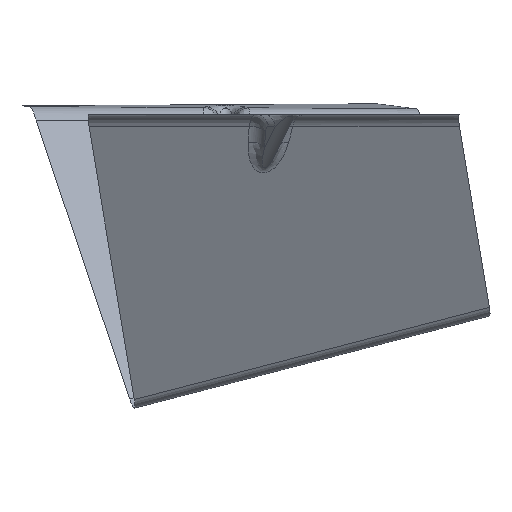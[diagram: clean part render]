
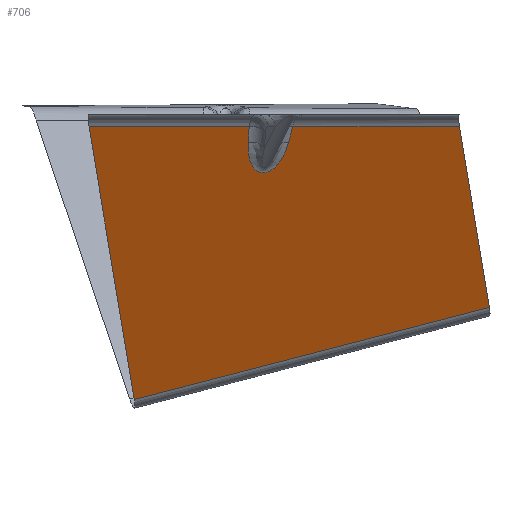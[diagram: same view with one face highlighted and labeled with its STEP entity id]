
A CAD part, left-side view. The second image highlights one B-rep face of the part: STEP entity #706.
In plain terms, the highlighted planar face has unit normal (-0.83, -0.249, -0.5).
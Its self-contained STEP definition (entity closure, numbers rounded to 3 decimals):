
#251=CARTESIAN_POINT('Vertex',(-82.024,6.7,-1.6)) ;
#274=CARTESIAN_POINT('Line Origine',(-65.912,8.593,-29.272)) ;
#278=CARTESIAN_POINT('Vertex',(-79.59,6.986,-5.78)) ;
#591=CARTESIAN_POINT('Control Point',(-76.308,-3.956,-5.78)) ;
#592=CARTESIAN_POINT('Control Point',(-76.11,-3.856,-6.157)) ;
#593=CARTESIAN_POINT('Control Point',(-75.916,-3.747,-6.534)) ;
#594=CARTESIAN_POINT('Control Point',(-75.725,-3.627,-6.91)) ;
#595=CARTESIAN_POINT('Control Point',(-75.357,-3.37,-7.65)) ;
#596=CARTESIAN_POINT('Control Point',(-75.004,-3.068,-8.385)) ;
#597=CARTESIAN_POINT('Control Point',(-74.835,-2.908,-8.746)) ;
#598=CARTESIAN_POINT('Control Point',(-74.521,-2.58,-9.429)) ;
#599=CARTESIAN_POINT('Control Point',(-74.228,-2.203,-10.103)) ;
#600=CARTESIAN_POINT('Control Point',(-74.093,-2.012,-10.422)) ;
#601=CARTESIAN_POINT('Control Point',(-73.854,-1.634,-11.006)) ;
#602=CARTESIAN_POINT('Control Point',(-73.64,-1.204,-11.576)) ;
#603=CARTESIAN_POINT('Control Point',(-73.547,-0.993,-11.834)) ;
#604=CARTESIAN_POINT('Control Point',(-73.34,-0.45,-12.448)) ;
#605=CARTESIAN_POINT('Control Point',(-73.187,0.188,-13.02)) ;
#606=CARTESIAN_POINT('Control Point',(-73.121,0.606,-13.338)) ;
#607=CARTESIAN_POINT('Control Point',(-73.081,1.263,-13.731)) ;
#608=CARTESIAN_POINT('Control Point',(-73.162,2.019,-13.973)) ;
#609=CARTESIAN_POINT('Control Point',(-73.196,2.24,-14.026)) ;
#610=CARTESIAN_POINT('Control Point',(-73.274,2.617,-14.084)) ;
#611=CARTESIAN_POINT('Control Point',(-73.386,2.992,-14.086)) ;
#612=CARTESIAN_POINT('Control Point',(-73.436,3.141,-14.077)) ;
#613=CARTESIAN_POINT('Control Point',(-73.54,3.42,-14.043)) ;
#614=CARTESIAN_POINT('Control Point',(-73.657,3.683,-13.979)) ;
#615=CARTESIAN_POINT('Control Point',(-73.716,3.804,-13.942)) ;
#616=CARTESIAN_POINT('Control Point',(-73.995,4.343,-13.747)) ;
#617=CARTESIAN_POINT('Control Point',(-74.308,4.786,-13.449)) ;
#618=CARTESIAN_POINT('Control Point',(-74.557,5.08,-13.181)) ;
#619=CARTESIAN_POINT('Control Point',(-74.977,5.508,-12.698)) ;
#620=CARTESIAN_POINT('Control Point',(-75.393,5.843,-12.175)) ;
#621=CARTESIAN_POINT('Control Point',(-75.563,5.967,-11.954)) ;
#622=CARTESIAN_POINT('Control Point',(-75.95,6.224,-11.44)) ;
#623=CARTESIAN_POINT('Control Point',(-76.33,6.427,-10.91)) ;
#624=CARTESIAN_POINT('Control Point',(-76.542,6.526,-10.609)) ;
#625=CARTESIAN_POINT('Control Point',(-77.013,6.72,-9.923)) ;
#626=CARTESIAN_POINT('Control Point',(-77.474,6.854,-9.225)) ;
#627=CARTESIAN_POINT('Control Point',(-77.728,6.912,-8.833)) ;
#628=CARTESIAN_POINT('Control Point',(-78.263,7.005,-7.992)) ;
#629=CARTESIAN_POINT('Control Point',(-78.783,7.034,-7.143)) ;
#630=CARTESIAN_POINT('Control Point',(-79.056,7.034,-6.69)) ;
#631=CARTESIAN_POINT('Control Point',(-79.325,7.017,-6.235)) ;
#632=CARTESIAN_POINT('Control Point',(-79.59,6.986,-5.78)) ;
#633=CARTESIAN_POINT('Vertex',(-76.308,-3.956,-5.78)) ;
#651=CARTESIAN_POINT('Axis2P3D Location',(-36.785,-11.035,-67.825)) ;
#656=CARTESIAN_POINT('Line Origine',(-77.402,-4.506,-3.69)) ;
#660=CARTESIAN_POINT('Vertex',(-78.497,-5.057,-1.6)) ;
#663=CARTESIAN_POINT('Line Origine',(-88.512,28.326,-1.6)) ;
#667=CARTESIAN_POINT('Vertex',(-95.,49.951,-1.6)) ;
#670=CARTESIAN_POINT('Line Origine',(-70.972,43.843,-38.421)) ;
#674=CARTESIAN_POINT('Vertex',(-46.945,37.734,-75.243)) ;
#677=CARTESIAN_POINT('Line Origine',(-40.064,-10.202,-62.8)) ;
#681=CARTESIAN_POINT('Vertex',(-33.183,-58.138,-50.358)) ;
#684=CARTESIAN_POINT('Line Origine',(-49.091,-54.093,-25.979)) ;
#688=CARTESIAN_POINT('Vertex',(-65.,-50.049,-1.6)) ;
#691=CARTESIAN_POINT('Line Origine',(-71.748,-27.553,-1.6)) ;
#275=DIRECTION('Vector Direction',(0.502,0.059,-0.863)) ;
#652=DIRECTION('Axis2P3D Direction',(0.83,0.249,0.5)) ;
#653=DIRECTION('Axis2P3D XDirection',(0.541,-0.138,-0.83)) ;
#657=DIRECTION('Vector Direction',(-0.452,-0.227,0.863)) ;
#664=DIRECTION('Vector Direction',(0.287,-0.958,0.)) ;
#671=DIRECTION('Vector Direction',(0.541,-0.138,-0.83)) ;
#678=DIRECTION('Vector Direction',(0.138,-0.959,0.249)) ;
#685=DIRECTION('Vector Direction',(-0.541,0.138,0.83)) ;
#692=DIRECTION('Vector Direction',(0.287,-0.958,0.)) ;
#654=AXIS2_PLACEMENT_3D('Plane Axis2P3D',#651,#652,#653) ;
#697=ORIENTED_EDGE('',*,*,#662,.T.) ;
#698=ORIENTED_EDGE('',*,*,#635,.T.) ;
#699=ORIENTED_EDGE('',*,*,#280,.T.) ;
#700=ORIENTED_EDGE('',*,*,#669,.F.) ;
#701=ORIENTED_EDGE('',*,*,#676,.T.) ;
#702=ORIENTED_EDGE('',*,*,#683,.T.) ;
#703=ORIENTED_EDGE('',*,*,#690,.T.) ;
#704=ORIENTED_EDGE('',*,*,#695,.F.) ;
#276=VECTOR('Line Direction',#275,1.) ;
#658=VECTOR('Line Direction',#657,1.) ;
#665=VECTOR('Line Direction',#664,1.) ;
#672=VECTOR('Line Direction',#671,1.) ;
#679=VECTOR('Line Direction',#678,1.) ;
#686=VECTOR('Line Direction',#685,1.) ;
#693=VECTOR('Line Direction',#692,1.) ;
#706=ADVANCED_FACE('Extract.1',(#705),#655,.F.) ;
#590=B_SPLINE_CURVE_WITH_KNOTS('',5,(#591,#592,#593,#594,#595,#596,#597,#598,#599,#600,#601,#602,#603,#604,#605,#606,#607,#608,#609,#610,#611,#612,#613,#614,#615,#616,#617,#618,#619,#620,#621,#622,#623,#624,#625,#626,#627,#628,#629,#630,#631,#632),.UNSPECIFIED.,.F.,.U.,(6,3,3,3,3,3,3,3,3,3,3,3,3,6),(20.477,23.394,26.222,28.786,30.98,34.099,35.33,36.16,36.917,39.647,41.566,44.029,47.114,50.631),.UNSPECIFIED.) ;
#280=EDGE_CURVE('',#279,#252,#277,.F.) ;
#635=EDGE_CURVE('',#634,#279,#590,.T.) ;
#662=EDGE_CURVE('',#661,#634,#659,.F.) ;
#669=EDGE_CURVE('',#668,#252,#666,.T.) ;
#676=EDGE_CURVE('',#668,#675,#673,.T.) ;
#683=EDGE_CURVE('',#675,#682,#680,.T.) ;
#690=EDGE_CURVE('',#682,#689,#687,.T.) ;
#695=EDGE_CURVE('',#661,#689,#694,.T.) ;
#696=EDGE_LOOP('',(#697,#698,#699,#700,#701,#702,#703,#704)) ;
#705=FACE_OUTER_BOUND('',#696,.T.) ;
#277=LINE('Line',#274,#276) ;
#659=LINE('Line',#656,#658) ;
#666=LINE('Line',#663,#665) ;
#673=LINE('Line',#670,#672) ;
#680=LINE('Line',#677,#679) ;
#687=LINE('Line',#684,#686) ;
#694=LINE('Line',#691,#693) ;
#655=PLANE('',#654) ;
#252=VERTEX_POINT('',#251) ;
#279=VERTEX_POINT('',#278) ;
#634=VERTEX_POINT('',#633) ;
#661=VERTEX_POINT('',#660) ;
#668=VERTEX_POINT('',#667) ;
#675=VERTEX_POINT('',#674) ;
#682=VERTEX_POINT('',#681) ;
#689=VERTEX_POINT('',#688) ;
